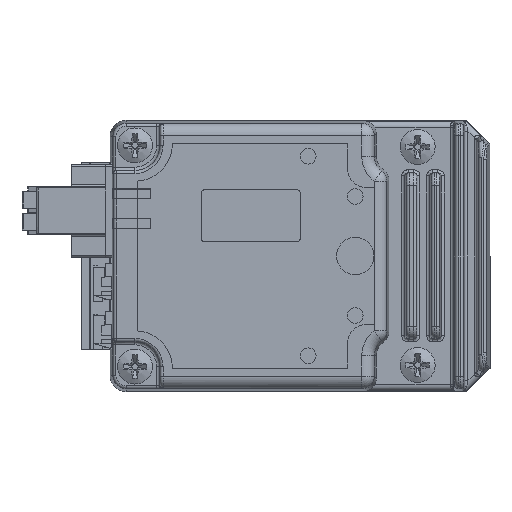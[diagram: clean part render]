
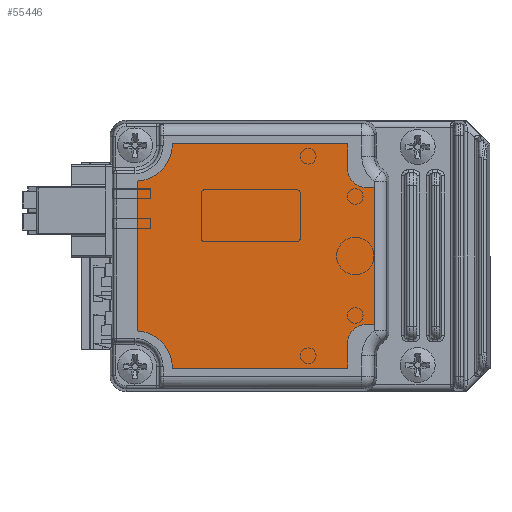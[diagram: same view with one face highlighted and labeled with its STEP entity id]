
A CAD part, left-side view. The second image highlights one B-rep face of the part: STEP entity #55446.
In plain terms, the highlighted planar face has unit normal (-1, 0, 0) as drawn and (0, 0, 1) by its records, which use the part's own axes.
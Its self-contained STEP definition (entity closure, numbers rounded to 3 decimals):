
#408 = VECTOR ( 'NONE', #58013, 1000. ) ;
#1098 = ORIENTED_EDGE ( 'NONE', *, *, #82912, .T. ) ;
#3146 = VERTEX_POINT ( 'NONE', #102890 ) ;
#4039 = VERTEX_POINT ( 'NONE', #54902 ) ;
#4277 = LINE ( 'NONE', #78682, #69503 ) ;
#5103 = CARTESIAN_POINT ( 'NONE',  ( -18., -19., 0.1 ) ) ;
#5832 = ORIENTED_EDGE ( 'NONE', *, *, #100002, .F. ) ;
#7301 = FACE_OUTER_BOUND ( 'NONE', #31574, .T. ) ;
#7522 = VERTEX_POINT ( 'NONE', #36763 ) ;
#9561 = VECTOR ( 'NONE', #84048, 1000. ) ;
#10755 = VECTOR ( 'NONE', #15529, 1000. ) ;
#15529 = DIRECTION ( 'NONE',  ( 0., 1., 0. ) ) ;
#16077 = CARTESIAN_POINT ( 'NONE',  ( 12.013, -19., 0.1 ) ) ;
#16240 = VERTEX_POINT ( 'NONE', #103327 ) ;
#16245 = CARTESIAN_POINT ( 'NONE',  ( 18., 19., 0.1 ) ) ;
#17653 = CIRCLE ( 'NONE', #33983, 3. ) ;
#19824 = ORIENTED_EDGE ( 'NONE', *, *, #71889, .F. ) ;
#21346 = VERTEX_POINT ( 'NONE', #27360 ) ;
#22441 = VECTOR ( 'NONE', #27446, 1000. ) ;
#25175 = LINE ( 'NONE', #51938, #22441 ) ;
#26016 = VERTEX_POINT ( 'NONE', #71915 ) ;
#26387 = VECTOR ( 'NONE', #64219, 1000. ) ;
#26946 = EDGE_CURVE ( 'NONE', #16240, #26016, #100715, .T. ) ;
#27359 = ORIENTED_EDGE ( 'NONE', *, *, #97557, .T. ) ;
#27360 = CARTESIAN_POINT ( 'NONE',  ( 18., -13.4, 0.1 ) ) ;
#27446 = DIRECTION ( 'NONE',  ( 1., 0., 0. ) ) ;
#30499 = ORIENTED_EDGE ( 'NONE', *, *, #75395, .T. ) ;
#31574 = EDGE_LOOP ( 'NONE', ( #5832, #27359, #77099, #30499, #62900, #71644, #19824, #42967, #72241, #44208, #59107, #1098 ) ) ;
#33440 = AXIS2_PLACEMENT_3D ( 'NONE', #97188, #47243, #55441 ) ;
#33983 = AXIS2_PLACEMENT_3D ( 'NONE', #74360, #91160, #91892 ) ;
#34164 = PLANE ( 'NONE',  #68888 ) ;
#35253 = DIRECTION ( 'NONE',  ( 1., 0., 0. ) ) ;
#36763 = CARTESIAN_POINT ( 'NONE',  ( -18., 14.7, 0.1 ) ) ;
#37280 = DIRECTION ( 'NONE',  ( 0., 0., 1. ) ) ;
#39968 = DIRECTION ( 'NONE',  ( 1., 0., 0. ) ) ;
#40426 = EDGE_CURVE ( 'NONE', #7522, #109271, #25175, .T. ) ;
#40715 = CARTESIAN_POINT ( 'NONE',  ( 14., 17.7, 0.1 ) ) ;
#41288 = CARTESIAN_POINT ( 'NONE',  ( 18., 14.7, 0.1 ) ) ;
#42967 = ORIENTED_EDGE ( 'NONE', *, *, #85845, .T. ) ;
#44208 = ORIENTED_EDGE ( 'NONE', *, *, #94497, .T. ) ;
#47017 = AXIS2_PLACEMENT_3D ( 'NONE', #53961, #37280, #78555 ) ;
#47243 = DIRECTION ( 'NONE',  ( 0., 0., 1. ) ) ;
#49780 = CARTESIAN_POINT ( 'NONE',  ( -18., -13.4, 0.1 ) ) ;
#50817 = DIRECTION ( 'NONE',  ( 0., -1., 0. ) ) ;
#51938 = CARTESIAN_POINT ( 'NONE',  ( -18., 14.7, 0.1 ) ) ;
#53961 = CARTESIAN_POINT ( 'NONE',  ( 18., -19.4, 0.1 ) ) ;
#54107 = EDGE_CURVE ( 'NONE', #16240, #76261, #107816, .T. ) ;
#54902 = CARTESIAN_POINT ( 'NONE',  ( 14., 14.7, 0.1 ) ) ;
#55441 = DIRECTION ( 'NONE',  ( 1., 0., 0. ) ) ;
#55446 = ADVANCED_FACE ( 'NONE', ( #7301 ), #34164, .T. ) ;
#56230 = VERTEX_POINT ( 'NONE', #94243 ) ;
#58013 = DIRECTION ( 'NONE',  ( 0., -1., 0. ) ) ;
#59107 = ORIENTED_EDGE ( 'NONE', *, *, #104100, .F. ) ;
#61215 = DIRECTION ( 'NONE',  ( 0., 1., 0. ) ) ;
#62900 = ORIENTED_EDGE ( 'NONE', *, *, #26946, .F. ) ;
#63610 = LINE ( 'NONE', #5103, #26387 ) ;
#64219 = DIRECTION ( 'NONE',  ( 1., 0., 0. ) ) ;
#65115 = AXIS2_PLACEMENT_3D ( 'NONE', #40715, #91678, #39968 ) ;
#67116 = VERTEX_POINT ( 'NONE', #93704 ) ;
#67693 = DIRECTION ( 'NONE',  ( 0., 0., 1. ) ) ;
#68888 = AXIS2_PLACEMENT_3D ( 'NONE', #110427, #67693, #35253 ) ;
#69503 = VECTOR ( 'NONE', #61215, 1000. ) ;
#71644 = ORIENTED_EDGE ( 'NONE', *, *, #54107, .T. ) ;
#71889 = EDGE_CURVE ( 'NONE', #56230, #76261, #4277, .T. ) ;
#71915 = CARTESIAN_POINT ( 'NONE',  ( 11., 17.7, 0.1 ) ) ;
#72241 = ORIENTED_EDGE ( 'NONE', *, *, #40426, .F. ) ;
#74360 = CARTESIAN_POINT ( 'NONE',  ( -14., 17.7, 0.1 ) ) ;
#74406 = CARTESIAN_POINT ( 'NONE',  ( -18., 19., 0.1 ) ) ;
#75395 = EDGE_CURVE ( 'NONE', #4039, #26016, #107959, .T. ) ;
#75438 = CARTESIAN_POINT ( 'NONE',  ( 11., 19., 0.1 ) ) ;
#75730 = CIRCLE ( 'NONE', #33440, 6. ) ;
#75754 = VECTOR ( 'NONE', #94897, 1000. ) ;
#75933 = LINE ( 'NONE', #16245, #10755 ) ;
#76261 = VERTEX_POINT ( 'NONE', #86403 ) ;
#77099 = ORIENTED_EDGE ( 'NONE', *, *, #85886, .F. ) ;
#78012 = VECTOR ( 'NONE', #50817, 1000. ) ;
#78555 = DIRECTION ( 'NONE',  ( 1., 0., 0. ) ) ;
#78682 = CARTESIAN_POINT ( 'NONE',  ( -11., 19., 0.1 ) ) ;
#82912 = EDGE_CURVE ( 'NONE', #67116, #105287, #63610, .T. ) ;
#84048 = DIRECTION ( 'NONE',  ( 1., 0., 0. ) ) ;
#85845 = EDGE_CURVE ( 'NONE', #56230, #109271, #17653, .T. ) ;
#85886 = EDGE_CURVE ( 'NONE', #4039, #3146, #108091, .T. ) ;
#86403 = CARTESIAN_POINT ( 'NONE',  ( -11., 19., 0.1 ) ) ;
#86947 = LINE ( 'NONE', #74406, #408 ) ;
#90064 = CARTESIAN_POINT ( 'NONE',  ( -14., 14.7, 0.1 ) ) ;
#91160 = DIRECTION ( 'NONE',  ( 0., 0., -1. ) ) ;
#91678 = DIRECTION ( 'NONE',  ( 0., 0., -1. ) ) ;
#91892 = DIRECTION ( 'NONE',  ( 1., 0., 0. ) ) ;
#93704 = CARTESIAN_POINT ( 'NONE',  ( -12.013, -19., 0.1 ) ) ;
#94243 = CARTESIAN_POINT ( 'NONE',  ( -11., 17.7, 0.1 ) ) ;
#94497 = EDGE_CURVE ( 'NONE', #7522, #105703, #86947, .T. ) ;
#94897 = DIRECTION ( 'NONE',  ( -1., 0., 0. ) ) ;
#97188 = CARTESIAN_POINT ( 'NONE',  ( -18., -19.4, 0.1 ) ) ;
#97557 = EDGE_CURVE ( 'NONE', #21346, #3146, #75933, .T. ) ;
#100002 = EDGE_CURVE ( 'NONE', #21346, #105287, #104129, .T. ) ;
#100715 = LINE ( 'NONE', #75438, #78012 ) ;
#102890 = CARTESIAN_POINT ( 'NONE',  ( 18., 14.7, 0.1 ) ) ;
#103098 = CARTESIAN_POINT ( 'NONE',  ( -18., 19., 0.1 ) ) ;
#103327 = CARTESIAN_POINT ( 'NONE',  ( 11., 19., 0.1 ) ) ;
#104100 = EDGE_CURVE ( 'NONE', #67116, #105703, #75730, .T. ) ;
#104129 = CIRCLE ( 'NONE', #47017, 6. ) ;
#105287 = VERTEX_POINT ( 'NONE', #16077 ) ;
#105703 = VERTEX_POINT ( 'NONE', #49780 ) ;
#107816 = LINE ( 'NONE', #103098, #75754 ) ;
#107959 = CIRCLE ( 'NONE', #65115, 3. ) ;
#108091 = LINE ( 'NONE', #41288, #9561 ) ;
#109271 = VERTEX_POINT ( 'NONE', #90064 ) ;
#110427 = CARTESIAN_POINT ( 'NONE',  ( 0., 0., 0.1 ) ) ;
